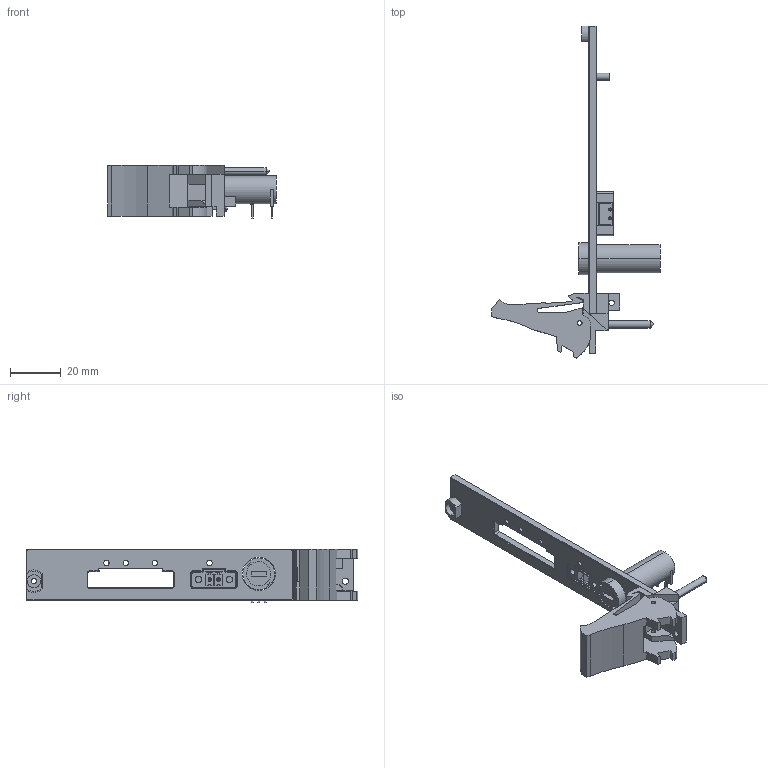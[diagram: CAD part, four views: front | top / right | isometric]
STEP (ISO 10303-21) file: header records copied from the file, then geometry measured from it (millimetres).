
FILE_DESCRIPTION((''),'2;1');
FILE_NAME('CD_PXI-4110','2008-05-30T',('scarrasc'),(''),'PRO/ENGINEER BY PARAMETRIC TECHNOLOGY CORPORATION, 2006080','PRO/ENGINEER BY PARAMETRIC TECHNOLOGY CORPORATION, 2006080','');
FILE_SCHEMA(('CONFIG_CONTROL_DESIGN'));
Length unit declared in the file: inch
Products named in the file (1): CD_PXI-4110
Bounding box: 66.29 x 130.5 x 20.98 mm (x, y, z)
Volume: 17321.1 mm3; surface area: 13637.9 mm2
Topology: 3 solids, 3 shells, 538 faces, 1411 edges, 919 vertices
Faces by surface type: plane 368, cylinder 164, cone 6
Entity records: 17110 total; most frequent: CARTESIAN_POINT 3475, ORIENTED_EDGE 2822, DIRECTION 2796, EDGE_CURVE 1411, VECTOR 1052, LINE 1052, VERTEX_POINT 919, AXIS2_PLACEMENT_3D 872
